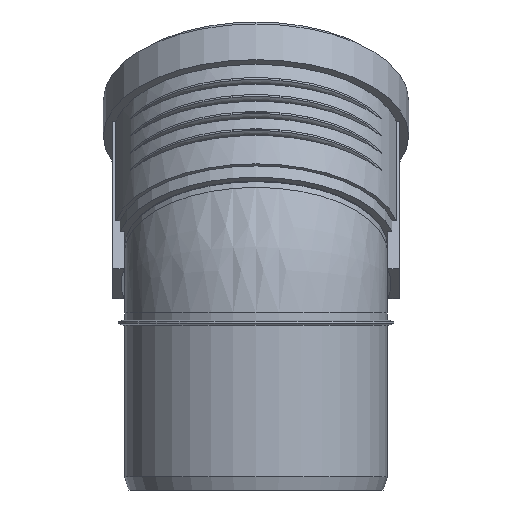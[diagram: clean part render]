
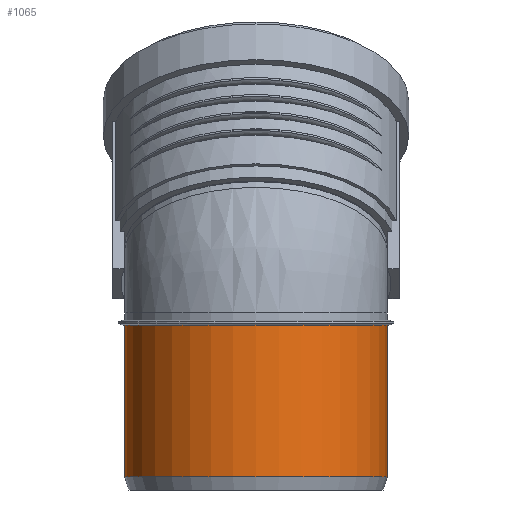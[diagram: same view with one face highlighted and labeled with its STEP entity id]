
A CAD part, left-side view. The second image highlights one B-rep face of the part: STEP entity #1065.
In plain terms, the highlighted cylindrical face has radius 55.1 mm (diameter 110.2 mm), a full revolution.
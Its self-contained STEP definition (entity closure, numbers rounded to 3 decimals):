
#190=CYLINDRICAL_SURFACE($,#1140,55.1);
#209=FACE_BOUND($,#314,.T.);
#252=FACE_OUTER_BOUND($,#313,.T.);
#313=EDGE_LOOP($,(#716));
#314=EDGE_LOOP($,(#717));
#414=CIRCLE($,#1138,55.1);
#416=CIRCLE($,#1141,55.1);
#469=VERTEX_POINT($,#1555);
#471=VERTEX_POINT($,#1560);
#575=EDGE_CURVE($,#469,#469,#414,.T.);
#577=EDGE_CURVE($,#471,#471,#416,.T.);
#716=ORIENTED_EDGE($,*,*,#577,.T.);
#717=ORIENTED_EDGE($,*,*,#575,.F.);
#1065=ADVANCED_FACE($,(#252,#209),#190,.T.);
#1138=AXIS2_PLACEMENT_3D($,#1556,#1267,#1268);
#1140=AXIS2_PLACEMENT_3D($,#1559,#1271,#1272);
#1141=AXIS2_PLACEMENT_3D($,#1561,#1273,#1274);
#1267=DIRECTION('center_axis',(0.,0.,-1.));
#1268=DIRECTION('ref_axis',(-1.,0.,0.));
#1271=DIRECTION('center_axis',(0.,0.,1.));
#1272=DIRECTION('ref_axis',(-1.,0.,0.));
#1273=DIRECTION('center_axis',(0.,0.,-1.));
#1274=DIRECTION('ref_axis',(-1.,0.,0.));
#1555=CARTESIAN_POINT('',(55.1,0.,5.5));
#1556=CARTESIAN_POINT('Origin',(0.,0.,5.5));
#1559=CARTESIAN_POINT('Origin',(0.,0.,0.));
#1560=CARTESIAN_POINT('',(-55.1,0.,69.1));
#1561=CARTESIAN_POINT('Origin',(0.,0.,69.1));
